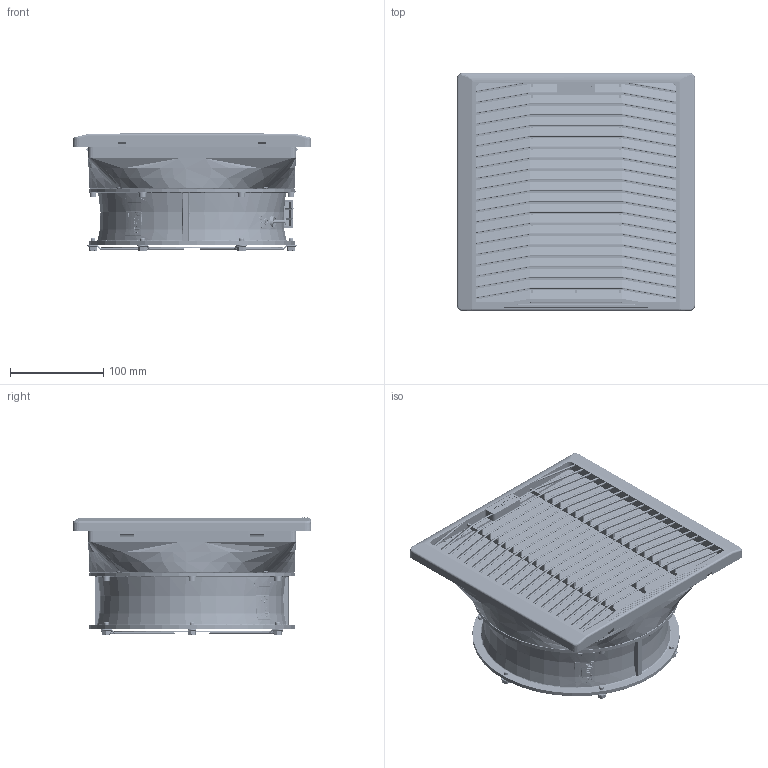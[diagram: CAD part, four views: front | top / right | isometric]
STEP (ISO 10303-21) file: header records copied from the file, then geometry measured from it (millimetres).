
FILE_DESCRIPTION(/* description */ (''),/* implementation_level */ '2;1');
FILE_NAME(/* name */ 'D:\Котлубовский\Впускные решётки\KIPVENT-400.21.230\KIPVENT-400.21.230 Решётка в сборе.stp',/* time_stamp */ '2022-02-28T20:26:55+07:00',/* author */ ('YURY_'),/* organization */ (''),/* preprocessor_version */ 'ST-DEVELOPER v17.2',/* originating_system */ 'Autodesk Inventor 2019',/* authorisation */ '');
FILE_SCHEMA (('AUTOMOTIVE_DESIGN { 1 0 10303 214 3 1 1 }'));
Products named in the file (18): KIPVENT-400.21.230 Решётка 
в сборе; VENT-220; KIPVENT-400.20.000 Впускная решётка 
в сборе; KIPVENT-400.20.000 Корпус; KIPVENT-400.20.000 Решётка; KIPVENT-400.20.000 Фильтр; VENT-22260.24VDC.5MRHB Вентилятор 
в сборе; Корпус VENT-22260.24VDC.5MR
HB; Крыльчатка VENT
-22260.24VDC.5MRHB; Короб VENT-22260.24VDC.5MRHB; Клипса VENT-22260.24VDC.5MR
HB; Провод VENT-22260.24VDC.5MR
HB; Винт 2.M4-6gx18 ГОСТ 
17475-80; Табличка VENT-22260.2
4VDC.5MRHB; Шайба 4 ГОСТ 
11371-78; Винт M4-6gx12 ГОСТ 
11738-84; Шайба 5 ГОСТ 
11371-78; Болт M5-6gx10 ГОСТ 
7805-70
Assembly tree (37 placements, depth 3):
  KIPVENT-400.21.230 Решётка 
в сборе
    VENT-220
    KIPVENT-400.20.000 Впускная решётка 
в сборе
      KIPVENT-400.20.000 Корпус
      KIPVENT-400.20.000 Решётка
      KIPVENT-400.20.000 Фильтр
    VENT-22260.24VDC.5MRHB Вентилятор 
в сборе
      Корпус VENT-22260.24VDC.5MR
HB
      Крыльчатка VENT
-22260.24VDC.5MRHB
      Короб VENT-22260.24VDC.5MRHB
      Клипса VENT-22260.24VDC.5MR
HB
      Провод VENT-22260.24VDC.5MR
HB
      Винт 2.M4-6gx18 ГОСТ 
17475-80
      Табличка VENT-22260.2
4VDC.5MRHB
    Шайба 4 ГОСТ 
11371-78  x6
    Винт M4-6gx12 ГОСТ 
11738-84  x6
    Шайба 5 ГОСТ 
11371-78  x6
    Болт M5-6gx10 ГОСТ 
7805-70  x6
Bounding box: 255 x 255 x 125.85 mm (x, y, z)
Volume: 1373589.1 mm3; surface area: 732269.6 mm2
Topology: 40 solids, 40 shells, 10391 faces, 26991 edges, 17138 vertices
Faces by surface type: plane 4778, bspline 3055, cylinder 1178, cone 611, torus 459, sphere 310
Full cylindrical faces by diameter (mm): 1.5 x2, 1.75 x36, 1.8 x2, 2.5 x8, 3.2 x14, 3.242 x2, 3.712 x1, 4 x8, 4.134 x12, 4.3 x6, 4.8 x8, 5 x12, 5.3 x6, 5.6 x1, 5.85 x6, 5.9 x8, 6.8 x1, 7 x7, 7.4 x1, 7.5 x4, 7.8 x1, 9 x6, 10 x8, 39 x1, 44.2 x1, 68 x1, 69 x1, 88.7 x1, 197.5 x1, 222 x2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
Entity records: 368786 total; most frequent: CARTESIAN_POINT 136435, ORIENTED_EDGE 52896, DIRECTION 39197, EDGE_CURVE 26448, VERTEX_POINT 16827, LINE 14377, VECTOR 14377, AXIS2_PLACEMENT_3D 12410
